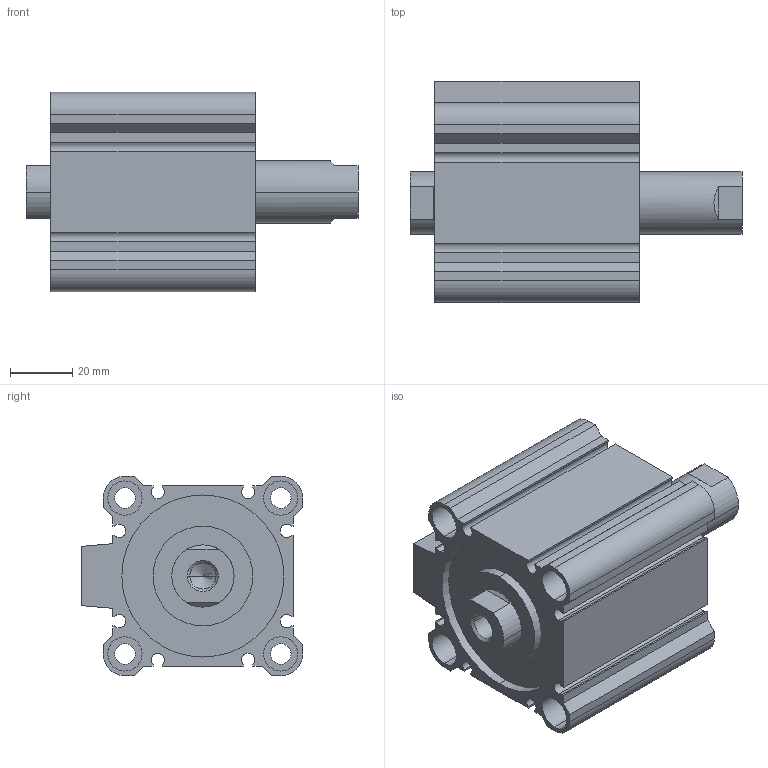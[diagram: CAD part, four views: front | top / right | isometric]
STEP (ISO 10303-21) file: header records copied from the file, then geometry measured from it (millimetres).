
FILE_DESCRIPTION (( 'STEP AP203' ), '1' );
FILE_NAME ('CCMB50-25F-P.STEP', '2020-08-05T11:27:15', ( '' ), ( '' ), 'SwSTEP 2.0', 'SolidWorks 2019', '' );
FILE_SCHEMA (( 'CONFIG_CONTROL_DESIGN' ));
Length unit declared in the file: millimetre
Products named in the file (1): CCMB50-25F-P
Bounding box: 106.5 x 71 x 64 mm (x, y, z)
Volume: 185184.6 mm3; surface area: 62081.3 mm2
Topology: 2 solids, 2 shells, 164 faces, 414 edges, 270 vertices
Faces by surface type: plane 78, cylinder 74, cone 12
Entity records: 5029 total; most frequent: DIRECTION 896, CARTESIAN_POINT 857, ORIENTED_EDGE 820, EDGE_CURVE 410, AXIS2_PLACEMENT_3D 325, VERTEX_POINT 270, VECTOR 246, LINE 246
